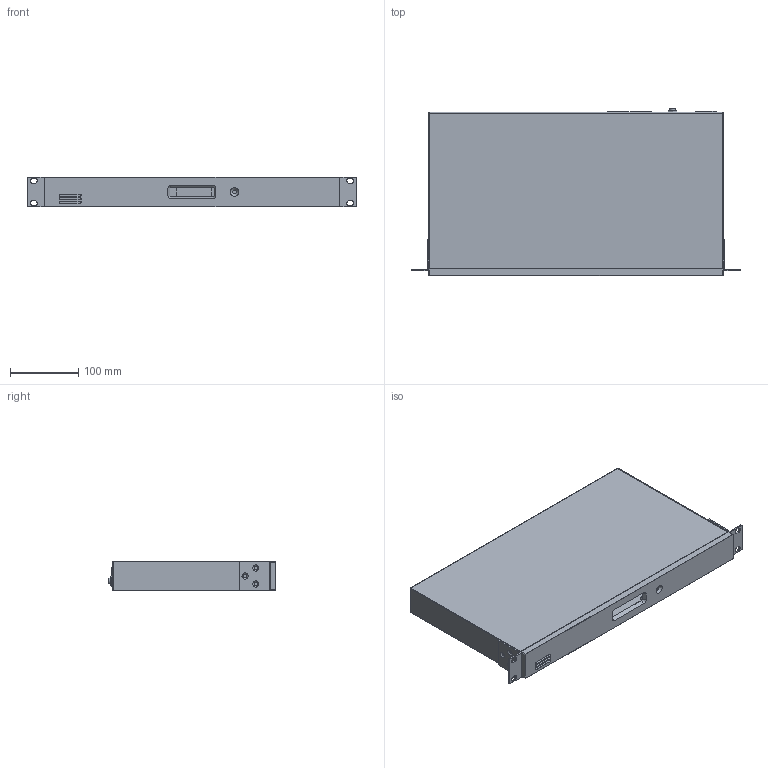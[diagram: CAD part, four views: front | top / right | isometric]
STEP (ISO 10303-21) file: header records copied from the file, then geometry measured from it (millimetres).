
FILE_DESCRIPTION(('FreeCAD Model'),'2;1');
FILE_NAME('Y:/3-AV-Parts-Sales/Produkte/nexgentec/NGTC-2000/drawings/NGTC-2000 complete.step','2020-11-16T16:24:48',('Author'),(''), 'Open CASCADE STEP processor 7.3','FreeCAD','Unknown');
FILE_SCHEMA(('AUTOMOTIVE_DESIGN { 1 0 10303 214 1 1 1 1 }'));
Length unit declared in the file: millimetre
Products named in the file (12): NGTC-2000_case; Brackets_-_1280NX_&_Prisms001; Brackets_-_1280NX_&_Prisms; RS-232; ARC; 1280NX_&_Prism_front; power_socket_240V; AUX_Power_24VDC2.0A; Logic_Outputs; External_Control_Inputs; Ethernet; Dante_Network_Audio
Bounding box: 483.1 x 246 x 44 mm (x, y, z)
Volume: 335066.5 mm3; surface area: 555319.1 mm2
Topology: 12 solids, 12 shells, 1145 faces, 2838 edges, 1782 vertices
Faces by surface type: plane 906, cylinder 125, cone 99, sphere 9, torus 6
Full cylindrical faces by diameter (mm): 2 x1, 2.1 x4, 2.5 x4, 3 x1, 5 x14, 5.6 x1, 6 x1, 8 x3, 9 x1, 11 x1
Entity records: 70488 total; most frequent: CARTESIAN_POINT 12019, DIRECTION 11041, LINE 7900, VECTOR 7900, ORIENTED_EDGE 5658, PCURVE 5658, DEFINITIONAL_REPRESENTATION 5658, EDGE_CURVE 2829
